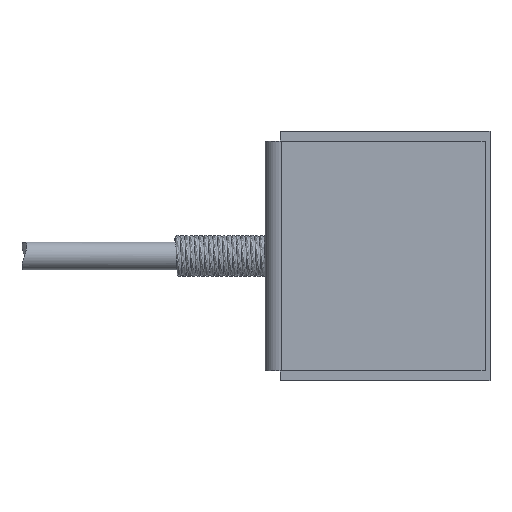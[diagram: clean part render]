
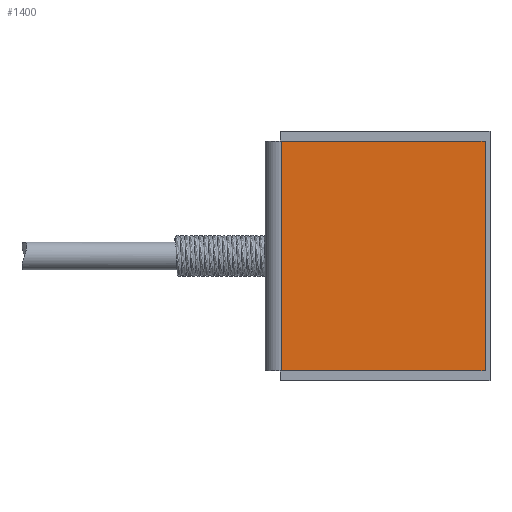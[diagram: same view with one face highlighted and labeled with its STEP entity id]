
A CAD part, front view. The second image highlights one B-rep face of the part: STEP entity #1400.
In plain terms, the highlighted planar face has unit normal (0, -1, 0).
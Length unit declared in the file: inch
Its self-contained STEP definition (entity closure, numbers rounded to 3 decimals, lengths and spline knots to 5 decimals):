
#138 = DIRECTION ( 'NONE',  ( 0., 0., -1. ) ) ;
#282 = DIRECTION ( 'NONE',  ( -1., 0., 0. ) ) ;
#284 = FACE_OUTER_BOUND ( 'NONE', #1347, .T. ) ;
#337 = VERTEX_POINT ( 'NONE', #1112 ) ;
#768 = LINE ( 'NONE', #3261, #3979 ) ;
#1074 = ORIENTED_EDGE ( 'NONE', *, *, #2484, .F. ) ;
#1100 = CARTESIAN_POINT ( 'NONE',  ( -0.03, -0.137, -0.72 ) ) ;
#1112 = CARTESIAN_POINT ( 'NONE',  ( -0.31, -0.137, -0.72 ) ) ;
#1239 = CARTESIAN_POINT ( 'NONE',  ( 0.3, -0.137, -0.72 ) ) ;
#1347 = EDGE_LOOP ( 'NONE', ( #1608, #1074, #3221, #2523 ) ) ;
#1400 = ADVANCED_FACE ( 'NONE', ( #284 ), #2713, .F. ) ;
#1475 = VECTOR ( 'NONE', #282, 39.37008 ) ;
#1608 = ORIENTED_EDGE ( 'NONE', *, *, #2668, .F. ) ;
#1703 = DIRECTION ( 'NONE',  ( 0., 0., -1. ) ) ;
#1782 = DIRECTION ( 'NONE',  ( 0., 1., 0. ) ) ;
#1789 = VECTOR ( 'NONE', #138, 39.37008 ) ;
#1813 = VERTEX_POINT ( 'NONE', #2768 ) ;
#2144 = LINE ( 'NONE', #1100, #2238 ) ;
#2190 = EDGE_CURVE ( 'NONE', #1813, #337, #3449, .T. ) ;
#2238 = VECTOR ( 'NONE', #3285, 39.37008 ) ;
#2304 = LINE ( 'NONE', #3663, #1475 ) ;
#2359 = CARTESIAN_POINT ( 'NONE',  ( 0.3, -0.137, -0.03 ) ) ;
#2398 = AXIS2_PLACEMENT_3D ( 'NONE', #3644, #1782, #3958 ) ;
#2484 = EDGE_CURVE ( 'NONE', #2744, #3621, #768, .T. ) ;
#2523 = ORIENTED_EDGE ( 'NONE', *, *, #2190, .T. ) ;
#2668 = EDGE_CURVE ( 'NONE', #3621, #337, #2144, .T. ) ;
#2713 = PLANE ( 'NONE',  #2398 ) ;
#2744 = VERTEX_POINT ( 'NONE', #2359 ) ;
#2768 = CARTESIAN_POINT ( 'NONE',  ( -0.31, -0.137, -0.03 ) ) ;
#3221 = ORIENTED_EDGE ( 'NONE', *, *, #3388, .T. ) ;
#3261 = CARTESIAN_POINT ( 'NONE',  ( 0.3, -0.137, -0.375 ) ) ;
#3285 = DIRECTION ( 'NONE',  ( -1., 0., 0. ) ) ;
#3388 = EDGE_CURVE ( 'NONE', #2744, #1813, #2304, .T. ) ;
#3449 = LINE ( 'NONE', #3864, #1789 ) ;
#3621 = VERTEX_POINT ( 'NONE', #1239 ) ;
#3644 = CARTESIAN_POINT ( 'NONE',  ( 0.3, -0.137, -0.72 ) ) ;
#3663 = CARTESIAN_POINT ( 'NONE',  ( -0.03, -0.137, -0.03 ) ) ;
#3864 = CARTESIAN_POINT ( 'NONE',  ( -0.31, -0.137, -0.375 ) ) ;
#3958 = DIRECTION ( 'NONE',  ( -1., 0., 0. ) ) ;
#3979 = VECTOR ( 'NONE', #1703, 39.37008 ) ;
